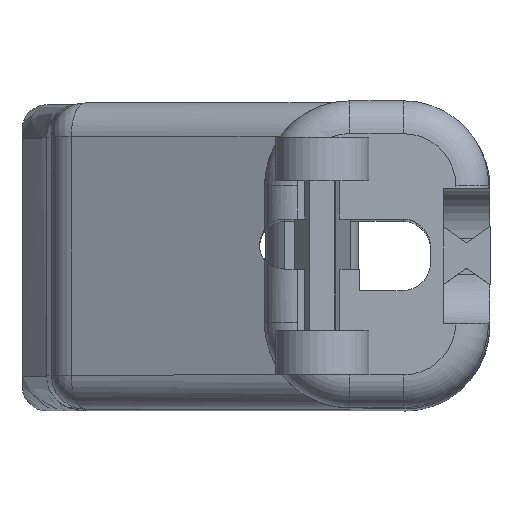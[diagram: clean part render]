
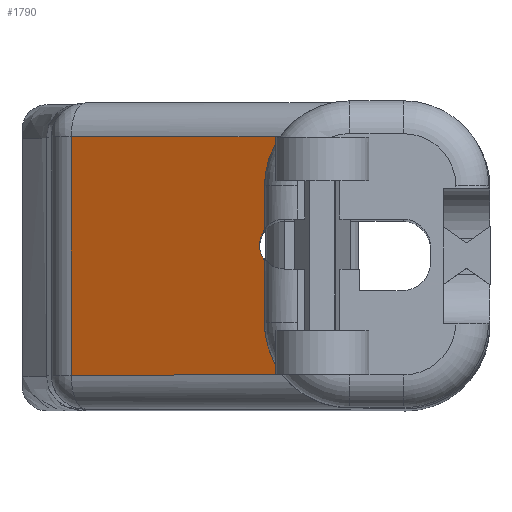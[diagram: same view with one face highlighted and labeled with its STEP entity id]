
A CAD part, top view. The second image highlights one B-rep face of the part: STEP entity #1790.
In plain terms, the highlighted planar face has unit normal (-0.412, 0, 0.911).
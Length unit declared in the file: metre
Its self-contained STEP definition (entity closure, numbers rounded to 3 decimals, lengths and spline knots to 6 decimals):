
#20=ELLIPSE('',#1912,0.001659,0.001512);
#21=ELLIPSE('',#1914,0.005608,0.005109);
#22=ELLIPSE('',#1918,0.005608,0.005109);
#23=ELLIPSE('',#1953,0.001616,0.001473);
#57=PLANE('',#1952);
#487=ORIENTED_EDGE('',*,*,#910,.F.);
#488=ORIENTED_EDGE('',*,*,#843,.T.);
#489=ORIENTED_EDGE('',*,*,#860,.T.);
#490=ORIENTED_EDGE('',*,*,#891,.T.);
#491=ORIENTED_EDGE('',*,*,#911,.T.);
#492=ORIENTED_EDGE('',*,*,#902,.T.);
#493=ORIENTED_EDGE('',*,*,#864,.T.);
#494=ORIENTED_EDGE('',*,*,#846,.T.);
#495=ORIENTED_EDGE('',*,*,#857,.F.);
#843=EDGE_CURVE('',#1087,#1089,#1250,.T.);
#846=EDGE_CURVE('',#1092,#1091,#1253,.T.);
#857=EDGE_CURVE('',#1096,#1091,#20,.F.);
#860=EDGE_CURVE('',#1089,#1099,#21,.T.);
#864=EDGE_CURVE('',#1102,#1092,#22,.T.);
#891=EDGE_CURVE('',#1099,#1116,#1271,.F.);
#902=EDGE_CURVE('',#1121,#1102,#1278,.F.);
#910=EDGE_CURVE('',#1087,#1096,#23,.F.);
#911=EDGE_CURVE('',#1116,#1121,#1281,.T.);
#1087=VERTEX_POINT('',#2784);
#1089=VERTEX_POINT('',#2788);
#1091=VERTEX_POINT('',#2794);
#1092=VERTEX_POINT('',#2796);
#1096=VERTEX_POINT('',#2821);
#1099=VERTEX_POINT('',#2836);
#1102=VERTEX_POINT('',#2845);
#1116=VERTEX_POINT('',#2929);
#1121=VERTEX_POINT('',#2959);
#1250=LINE('',#2789,#1418);
#1253=LINE('',#2795,#1421);
#1271=LINE('',#2930,#1439);
#1278=LINE('',#2958,#1446);
#1281=LINE('',#2990,#1449);
#1418=VECTOR('',#2217,1.);
#1421=VECTOR('',#2222,1.);
#1439=VECTOR('',#2308,1.);
#1446=VECTOR('',#2331,1.);
#1449=VECTOR('',#2346,1.);
#1558=EDGE_LOOP('',(#487,#488,#489,#490,#491,#492,#493,#494,#495));
#1663=FACE_BOUND('',#1558,.T.);
#1790=ADVANCED_FACE('',(#1663),#57,.F.);
#1912=AXIS2_PLACEMENT_3D('',#2822,#2240,#2241);
#1914=AXIS2_PLACEMENT_3D('',#2837,#2245,#2246);
#1918=AXIS2_PLACEMENT_3D('',#2844,#2254,#2255);
#1952=AXIS2_PLACEMENT_3D('',#2988,#2342,#2343);
#1953=AXIS2_PLACEMENT_3D('',#2989,#2344,#2345);
#2217=DIRECTION('',(0.,1.,0.));
#2222=DIRECTION('',(0.,1.,0.));
#2240=DIRECTION('',(0.412,0.,-0.911));
#2241=DIRECTION('',(0.911,0.,0.412));
#2245=DIRECTION('',(0.412,0.,-0.911));
#2246=DIRECTION('',(-0.911,0.,-0.412));
#2254=DIRECTION('',(0.412,0.,-0.911));
#2255=DIRECTION('',(-0.911,0.,-0.412));
#2308=DIRECTION('',(0.911,0.,0.412));
#2331=DIRECTION('',(-0.911,0.,-0.412));
#2342=DIRECTION('',(0.412,0.,-0.911));
#2343=DIRECTION('',(-0.911,0.,-0.412));
#2344=DIRECTION('',(0.412,0.,-0.911));
#2345=DIRECTION('',(-0.911,0.,-0.412));
#2346=DIRECTION('',(0.,-1.,0.));
#2784=CARTESIAN_POINT('',(0.020094,-0.00232,0.083388));
#2788=CARTESIAN_POINT('',(0.020094,0.000296,0.083388));
#2789=CARTESIAN_POINT('',(0.020094,-0.003799,0.083388));
#2794=CARTESIAN_POINT('',(0.020094,-0.004159,0.083388));
#2795=CARTESIAN_POINT('',(0.020094,-0.003799,0.083388));
#2796=CARTESIAN_POINT('',(0.020094,-0.007895,0.083388));
#2821=CARTESIAN_POINT('',(0.019881,-0.002781,0.083291));
#2822=CARTESIAN_POINT('',(0.021313,-0.003264,0.083939));
#2836=CARTESIAN_POINT('',(0.021036,0.003253,0.083814));
#2837=CARTESIAN_POINT('',(0.025203,0.000296,0.085699));
#2844=CARTESIAN_POINT('',(0.025203,-0.007895,0.085699));
#2845=CARTESIAN_POINT('',(0.02117,-0.011031,0.083874));
#2929=CARTESIAN_POINT('',(0.008503,0.003253,0.078143));
#2930=CARTESIAN_POINT('',(0.01242,0.003253,0.079916));
#2958=CARTESIAN_POINT('',(0.01242,-0.011031,0.079916));
#2959=CARTESIAN_POINT('',(0.008503,-0.011031,0.078143));
#2988=CARTESIAN_POINT('',(0.01242,-0.023502,0.079916));
#2989=CARTESIAN_POINT('',(0.021304,-0.00316,0.083935));
#2990=CARTESIAN_POINT('',(0.008503,-0.011031,0.078143));
